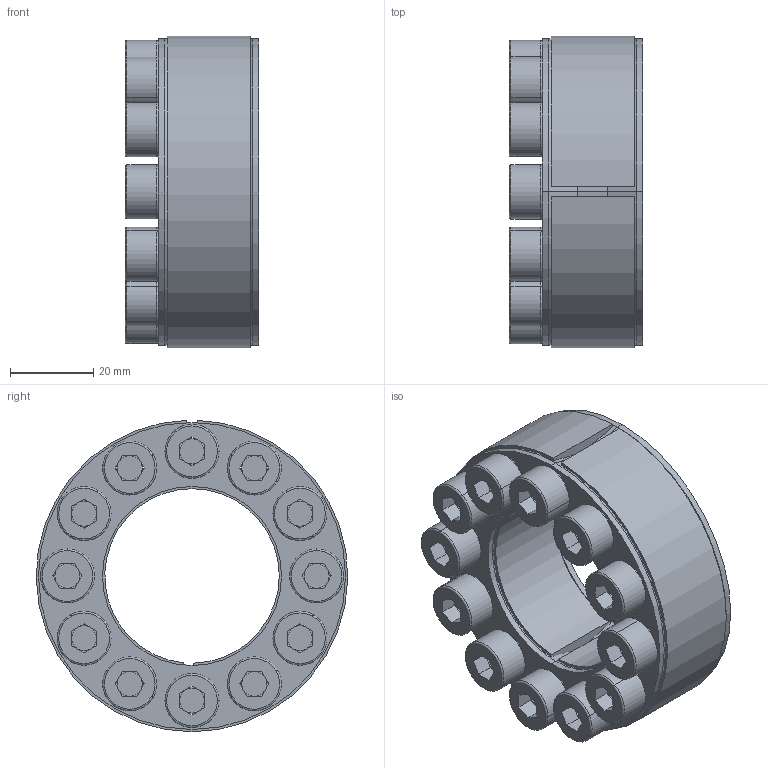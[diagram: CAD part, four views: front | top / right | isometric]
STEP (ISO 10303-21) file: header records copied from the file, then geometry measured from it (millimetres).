
FILE_DESCRIPTION (( 'STEP AP203' ), '1' );
FILE_NAME ('D1-42-75 Assy.STEP', '2017-10-11T03:21:25', ( 'MYCOM' ), ( '' ), 'SwSTEP 2.0', 'SolidWorks 2015', '' );
FILE_SCHEMA (( 'CONFIG_CONTROL_DESIGN' ));
Length unit declared in the file: millimetre
Products named in the file (1): D1-42-75 Assy
Bounding box: 32.14 x 74.99 x 74.98 mm (x, y, z)
Surface area: 29689.3 mm2 (no closed solid volume)
Topology: 0 solids, 28 shells, 297 faces, 771 edges, 482 vertices
Faces by surface type: plane 158, cylinder 83, torus 48, cone 8
Entity records: 9168 total; most frequent: DIRECTION 1729, CARTESIAN_POINT 1593, ORIENTED_EDGE 1363, EDGE_CURVE 771, AXIS2_PLACEMENT_3D 668, VERTEX_POINT 482, LINE 393, VECTOR 393
